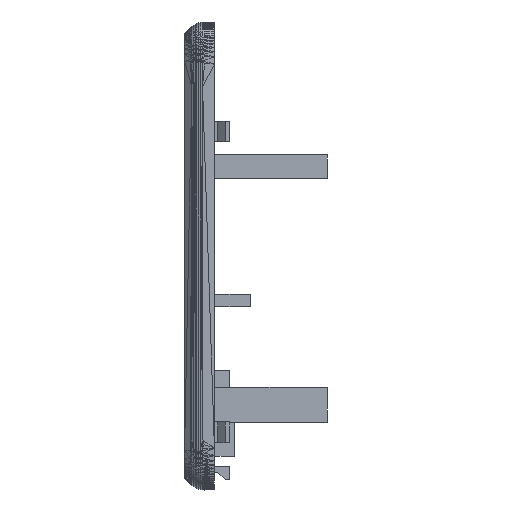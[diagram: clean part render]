
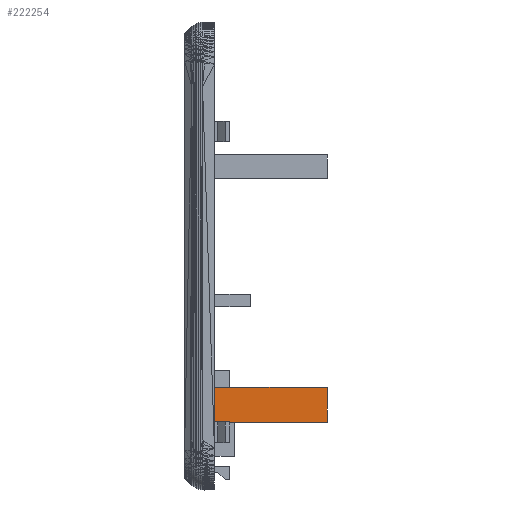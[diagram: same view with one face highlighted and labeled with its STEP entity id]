
A CAD part, left-side view. The second image highlights one B-rep face of the part: STEP entity #222254.
In plain terms, the highlighted planar face has unit normal (-1, 0, 0).
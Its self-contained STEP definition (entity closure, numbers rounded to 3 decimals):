
#42196 = PLANE('',#42197);
#42197 = AXIS2_PLACEMENT_3D('',#42198,#42199,#42200);
#42198 = CARTESIAN_POINT('',(12.04,46.81,
    -24.2));
#42199 = DIRECTION('',(-0.,-0.,-1.));
#42200 = DIRECTION('',(-1.,0.,0.));
#42252 = PLANE('',#42253);
#42253 = AXIS2_PLACEMENT_3D('',#42254,#42255,#42256);
#42254 = CARTESIAN_POINT('',(12.394,60.706,
    -17.2));
#42255 = DIRECTION('',(0.,0.,1.));
#42256 = DIRECTION('',(1.,0.,-0.));
#221980 = VERTEX_POINT('',#221981);
#221981 = CARTESIAN_POINT('',(11.,59.8,-17.2));
#221995 = PLANE('',#221996);
#221996 = AXIS2_PLACEMENT_3D('',#221997,#221998,#221999);
#221997 = CARTESIAN_POINT('',(8.774,59.8,
    -20.074));
#221998 = DIRECTION('',(-0.,-1.,-0.));
#221999 = DIRECTION('',(0.,0.,-1.));
#222007 = EDGE_CURVE('',#222008,#221980,#222010,.T.);
#222008 = VERTEX_POINT('',#222009);
#222009 = CARTESIAN_POINT('',(11.,34.5,-17.2));
#222010 = SURFACE_CURVE('',#222011,(#222015,#222022),.PCURVE_S1.);
#222011 = LINE('',#222012,#222013);
#222012 = CARTESIAN_POINT('',(11.,34.5,-17.2));
#222013 = VECTOR('',#222014,1.);
#222014 = DIRECTION('',(0.,1.,0.));
#222015 = PCURVE('',#42252,#222016);
#222016 = DEFINITIONAL_REPRESENTATION('',(#222017),#222021);
#222017 = LINE('',#222018,#222019);
#222018 = CARTESIAN_POINT('',(-1.394,-26.206));
#222019 = VECTOR('',#222020,1.);
#222020 = DIRECTION('',(0.,1.));
#222021 = ( GEOMETRIC_REPRESENTATION_CONTEXT(2) 
PARAMETRIC_REPRESENTATION_CONTEXT() REPRESENTATION_CONTEXT('2D SPACE',''
  ) );
#222022 = PCURVE('',#222023,#222028);
#222023 = PLANE('',#222024);
#222024 = AXIS2_PLACEMENT_3D('',#222025,#222026,#222027);
#222025 = CARTESIAN_POINT('',(11.,45.638,-19.188));
#222026 = DIRECTION('',(-1.,-0.,-0.));
#222027 = DIRECTION('',(0.,0.,-1.));
#222028 = DEFINITIONAL_REPRESENTATION('',(#222029),#222033);
#222029 = LINE('',#222030,#222031);
#222030 = CARTESIAN_POINT('',(-1.988,11.138));
#222031 = VECTOR('',#222032,1.);
#222032 = DIRECTION('',(0.,-1.));
#222033 = ( GEOMETRIC_REPRESENTATION_CONTEXT(2) 
PARAMETRIC_REPRESENTATION_CONTEXT() REPRESENTATION_CONTEXT('2D SPACE',''
  ) );
#222051 = PLANE('',#222052);
#222052 = AXIS2_PLACEMENT_3D('',#222053,#222054,#222055);
#222053 = CARTESIAN_POINT('',(12.015,34.5,-21.015));
#222054 = DIRECTION('',(-0.,-1.,-0.));
#222055 = DIRECTION('',(0.,0.,-1.));
#222111 = EDGE_CURVE('',#222008,#222112,#222114,.T.);
#222112 = VERTEX_POINT('',#222113);
#222113 = CARTESIAN_POINT('',(11.,34.5,-24.2));
#222114 = SURFACE_CURVE('',#222115,(#222119,#222126),.PCURVE_S1.);
#222115 = LINE('',#222116,#222117);
#222116 = CARTESIAN_POINT('',(11.,34.5,-17.2));
#222117 = VECTOR('',#222118,1.);
#222118 = DIRECTION('',(0.,0.,-1.));
#222119 = PCURVE('',#222051,#222120);
#222120 = DEFINITIONAL_REPRESENTATION('',(#222121),#222125);
#222121 = LINE('',#222122,#222123);
#222122 = CARTESIAN_POINT('',(-3.815,-1.015));
#222123 = VECTOR('',#222124,1.);
#222124 = DIRECTION('',(1.,0.));
#222125 = ( GEOMETRIC_REPRESENTATION_CONTEXT(2) 
PARAMETRIC_REPRESENTATION_CONTEXT() REPRESENTATION_CONTEXT('2D SPACE',''
  ) );
#222126 = PCURVE('',#222023,#222127);
#222127 = DEFINITIONAL_REPRESENTATION('',(#222128),#222132);
#222128 = LINE('',#222129,#222130);
#222129 = CARTESIAN_POINT('',(-1.988,11.138));
#222130 = VECTOR('',#222131,1.);
#222131 = DIRECTION('',(1.,0.));
#222132 = ( GEOMETRIC_REPRESENTATION_CONTEXT(2) 
PARAMETRIC_REPRESENTATION_CONTEXT() REPRESENTATION_CONTEXT('2D SPACE',''
  ) );
#222159 = EDGE_CURVE('',#222160,#222112,#222162,.T.);
#222160 = VERTEX_POINT('',#222161);
#222161 = CARTESIAN_POINT('',(11.,59.8,-24.2));
#222162 = SURFACE_CURVE('',#222163,(#222167,#222174),.PCURVE_S1.);
#222163 = LINE('',#222164,#222165);
#222164 = CARTESIAN_POINT('',(11.,59.8,-24.2));
#222165 = VECTOR('',#222166,1.);
#222166 = DIRECTION('',(0.,-1.,0.));
#222167 = PCURVE('',#42196,#222168);
#222168 = DEFINITIONAL_REPRESENTATION('',(#222169),#222173);
#222169 = LINE('',#222170,#222171);
#222170 = CARTESIAN_POINT('',(1.04,12.99));
#222171 = VECTOR('',#222172,1.);
#222172 = DIRECTION('',(0.,-1.));
#222173 = ( GEOMETRIC_REPRESENTATION_CONTEXT(2) 
PARAMETRIC_REPRESENTATION_CONTEXT() REPRESENTATION_CONTEXT('2D SPACE',''
  ) );
#222174 = PCURVE('',#222023,#222175);
#222175 = DEFINITIONAL_REPRESENTATION('',(#222176),#222180);
#222176 = LINE('',#222177,#222178);
#222177 = CARTESIAN_POINT('',(5.012,-14.162));
#222178 = VECTOR('',#222179,1.);
#222179 = DIRECTION('',(0.,1.));
#222180 = ( GEOMETRIC_REPRESENTATION_CONTEXT(2) 
PARAMETRIC_REPRESENTATION_CONTEXT() REPRESENTATION_CONTEXT('2D SPACE',''
  ) );
#222254 = ADVANCED_FACE('',(#222255),#222023,.T.);
#222255 = FACE_BOUND('',#222256,.T.);
#222256 = EDGE_LOOP('',(#222257,#222258,#222259,#222280));
#222257 = ORIENTED_EDGE('',*,*,#222111,.F.);
#222258 = ORIENTED_EDGE('',*,*,#222007,.T.);
#222259 = ORIENTED_EDGE('',*,*,#222260,.T.);
#222260 = EDGE_CURVE('',#221980,#222160,#222261,.T.);
#222261 = SURFACE_CURVE('',#222262,(#222266,#222273),.PCURVE_S1.);
#222262 = LINE('',#222263,#222264);
#222263 = CARTESIAN_POINT('',(11.,59.8,-17.2));
#222264 = VECTOR('',#222265,1.);
#222265 = DIRECTION('',(0.,0.,-1.));
#222266 = PCURVE('',#222023,#222267);
#222267 = DEFINITIONAL_REPRESENTATION('',(#222268),#222272);
#222268 = LINE('',#222269,#222270);
#222269 = CARTESIAN_POINT('',(-1.988,-14.162));
#222270 = VECTOR('',#222271,1.);
#222271 = DIRECTION('',(1.,0.));
#222272 = ( GEOMETRIC_REPRESENTATION_CONTEXT(2) 
PARAMETRIC_REPRESENTATION_CONTEXT() REPRESENTATION_CONTEXT('2D SPACE',''
  ) );
#222273 = PCURVE('',#221995,#222274);
#222274 = DEFINITIONAL_REPRESENTATION('',(#222275),#222279);
#222275 = LINE('',#222276,#222277);
#222276 = CARTESIAN_POINT('',(-2.874,2.226));
#222277 = VECTOR('',#222278,1.);
#222278 = DIRECTION('',(1.,0.));
#222279 = ( GEOMETRIC_REPRESENTATION_CONTEXT(2) 
PARAMETRIC_REPRESENTATION_CONTEXT() REPRESENTATION_CONTEXT('2D SPACE',''
  ) );
#222280 = ORIENTED_EDGE('',*,*,#222159,.T.);
